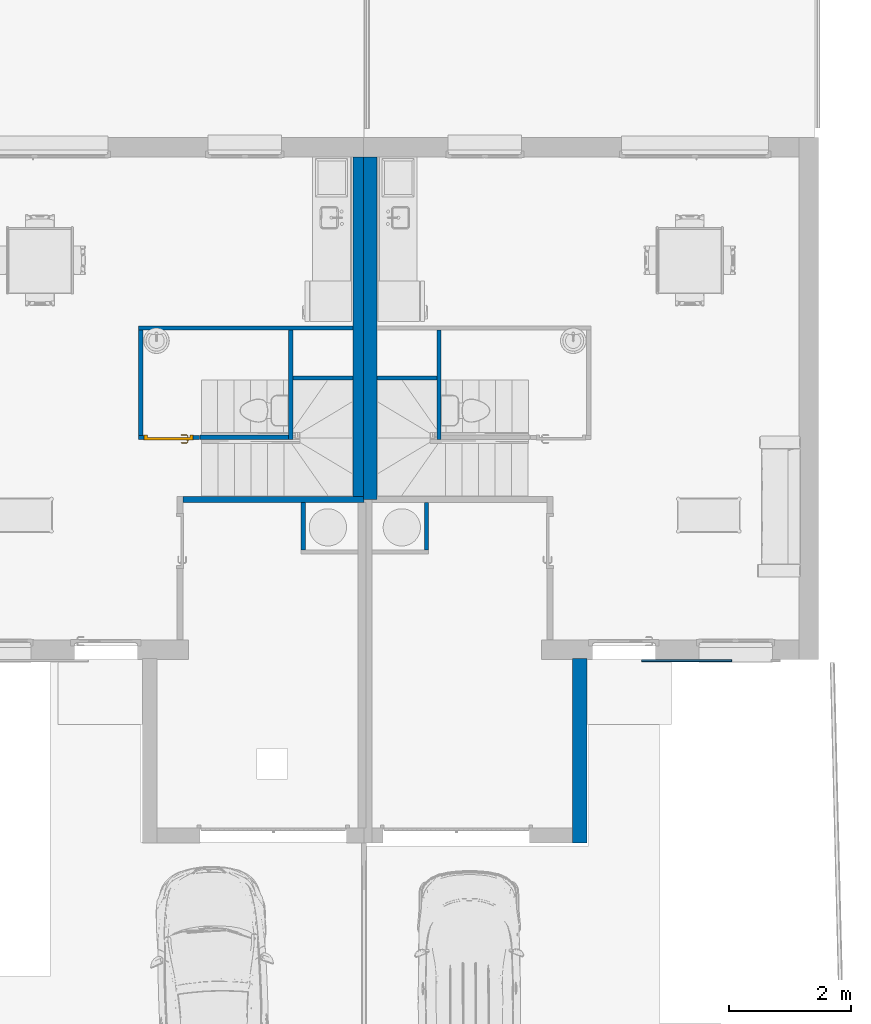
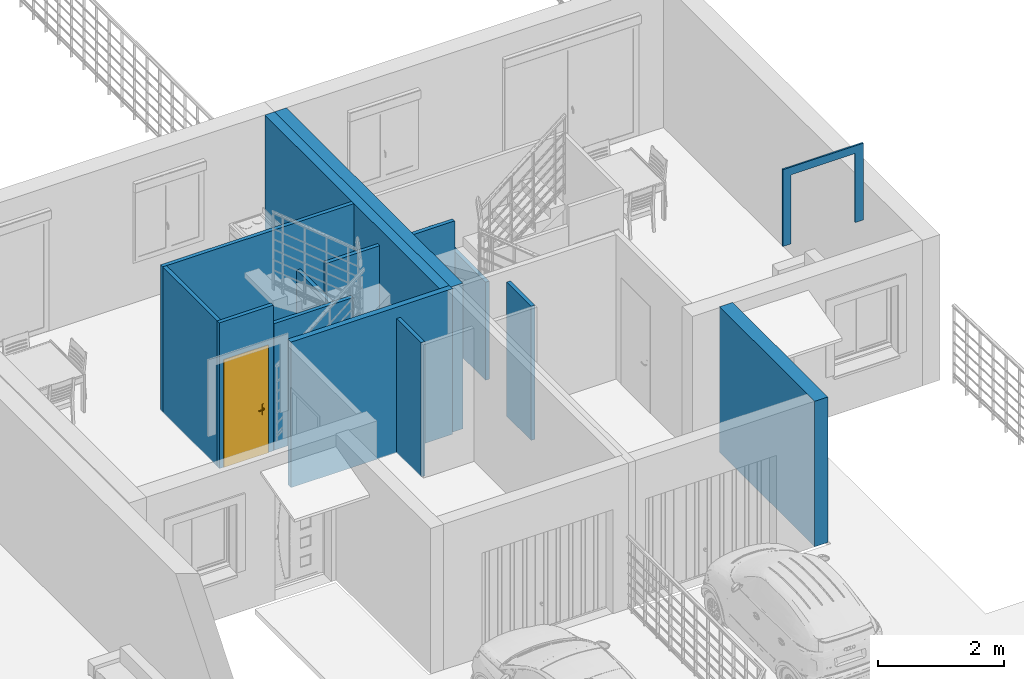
# One storey, part 19 of 33: 15 walls, 1 door, 2 openings.
"""IFC2X3 building model written with IfcOpenShell, lengths in metres."""

import ifcopenshell
import ifcopenshell.guid

model = None  # the IFC model being written
_history = None  # IfcOwnerHistory: only IFC2X3 demands one
_inside = {}  # id of a spatial element -> (the spatial element, [elements in it])
_under = {}  # id of a project, library or spatial element -> (it, [spatial elements below it])
_declared = {}  # id of a project -> (the project, [libraries it declares])
_typed = {}  # id of a type object -> (the type object, [elements of that type])
_made_of = {}  # id of a material, layer set ... -> (it, [elements and type objects made of it])


def new_model(schema):
    """Start an empty IFC model of exactly this schema.

    Asked for "IFC4X3", IfcOpenShell would pick the latest addendum, in which some entities
    have other attributes; the version numbers below select the first issue.
    IFC2X3 requires an IfcOwnerHistory on every rooted entity: one is made here for all.
    """
    global model, _history
    if schema == "IFC4X3":
        model = ifcopenshell.file(schema_version=(4, 3, 0, 0))
    else:
        model = ifcopenshell.file(schema=schema)
    _inside.clear()
    _under.clear()
    _declared.clear()
    _typed.clear()
    _made_of.clear()
    _history = None
    if model.schema == "IFC2X3":
        org = make("IfcOrganization", Name="unknown")
        user = make(
            "IfcPersonAndOrganization",
            ThePerson=make("IfcPerson", FamilyName="unknown"),
            TheOrganization=org,
        )
        app = make(
            "IfcApplication",
            ApplicationDeveloper=org,
            Version="unknown",
            ApplicationFullName="unknown",
            ApplicationIdentifier="unknown",
        )
        _history = make(
            "IfcOwnerHistory",
            OwningUser=user,
            OwningApplication=app,
            ChangeAction="ADDED",
            CreationDate=0,
        )
    return model


def make(cls, **values):
    """One entity of the class cls with the attributes given. An attribute that is None is left unset."""
    return model.create_entity(
        cls, **{name: value for name, value in values.items() if value is not None}
    )


def entity(cls, *values):
    """Any entity or typed value of the class cls, its attributes in the order of the schema. None: left unset."""
    e = model.create_entity(cls)
    for i, value in enumerate(values):
        if value is not None:
            e[i] = value
    return e


def rooted(cls, **values):
    """An entity with a GlobalId (a new one), such as an element, a storey or a relation."""
    return make(cls, GlobalId=ifcopenshell.guid.new(), OwnerHistory=_history, **values)


def si_unit(unit_type, name, prefix=None):
    """IfcSIUnit, for example si_unit("LENGTHUNIT", "METRE", prefix="MILLI")."""
    return make("IfcSIUnit", UnitType=unit_type, Prefix=prefix, Name=name)


def converted_unit(unit_type, name, factor, base, dimensions=None, offset=None):
    """IfcConversionBasedUnit, such as the inch: factor (a typed value) times the base unit."""
    return make(
        "IfcConversionBasedUnit"
        if offset is None
        else "IfcConversionBasedUnitWithOffset",
        ConversionOffset=offset,
        Dimensions=None
        if dimensions is None
        else entity("IfcDimensionalExponents", *dimensions),
        UnitType=unit_type,
        Name=name,
        ConversionFactor=make(
            "IfcMeasureWithUnit", ValueComponent=factor, UnitComponent=base
        ),
    )


def derived_unit(unit_type, elements):
    """IfcDerivedUnit: a product of units, each with its exponent."""
    return make(
        "IfcDerivedUnit",
        Elements=[
            make("IfcDerivedUnitElement", Unit=unit, Exponent=power)
            for unit, power in elements
        ],
        UnitType=unit_type,
    )


def assignment(units):
    """IfcUnitAssignment: the units of a project."""
    return None if units is None else make("IfcUnitAssignment", Units=units)


def point(xyz):
    """IfcCartesianPoint."""
    return None if xyz is None else make("IfcCartesianPoint", Coordinates=xyz)


def direction(xyz):
    """IfcDirection."""
    return None if xyz is None else make("IfcDirection", DirectionRatios=xyz)


def frame(location, z_axis=None, x_axis=None):
    """IfcAxis2Placement3D, a coordinate frame: its origin and axes. An axis left out is left unset."""
    return make(
        "IfcAxis2Placement3D",
        Location=point(location),
        Axis=direction(z_axis),
        RefDirection=direction(x_axis),
    )


def frame_2d(location, x_axis=None):
    """IfcAxis2Placement2D, a coordinate frame in the plane: its origin and x axis."""
    return make(
        "IfcAxis2Placement2D", Location=point(location), RefDirection=direction(x_axis)
    )


def origin():
    """The frame at (0, 0, 0) with its axes left unset."""
    return frame((0.0, 0.0, 0.0))


def place(relative_to, where):
    """IfcLocalPlacement: puts the frame where relative to a parent placement (None: the world)."""
    return make(
        "IfcLocalPlacement", PlacementRelTo=relative_to, RelativePlacement=where
    )


def context(
    kind, dimensions, precision=None, world=None, true_north=None, identifier=None
):
    """IfcGeometricRepresentationContext, for example the 3D "Model" context."""
    return make(
        "IfcGeometricRepresentationContext",
        ContextIdentifier=identifier,
        ContextType=kind,
        CoordinateSpaceDimension=dimensions,
        Precision=precision,
        WorldCoordinateSystem=world,
        TrueNorth=true_north,
    )


def subcontext(parent, identifier, kind, view, scale=None):
    """IfcGeometricRepresentationSubContext, for example "Body" below "Model"."""
    return make(
        "IfcGeometricRepresentationSubContext",
        ContextIdentifier=identifier,
        ContextType=kind,
        ParentContext=parent,
        TargetScale=scale,
        TargetView=view,
    )


def project(units=None, contexts=None):
    """IfcProject with its units and contexts."""
    return rooted(
        "IfcProject",
        Name="project",
        RepresentationContexts=contexts,
        UnitsInContext=assignment(units),
    )


def spatial(cls, under=None, at=None, **own):
    """A site, building, storey or space (cls), placed at a placement, below another one or the project."""
    s = rooted(cls, ObjectPlacement=at, **own)
    if under is not None:
        _under.setdefault(under.id(), (under, []))[1].append(s)
    return s


def polyline(points):
    """IfcPolyline through the points."""
    return make("IfcPolyline", Points=[point(p) for p in points])


def profile(cls, at=None, kind="AREA", **sizes):
    """A parametric profile (cls). Its sizes go by their IFC names, for example OverallWidth=200.0."""
    return make(cls, ProfileType=kind, Position=at, **sizes)


def rectangle(**sizes):
    """IfcRectangleProfileDef."""
    return profile("IfcRectangleProfileDef", **sizes)


def outline(outer, holes=None, kind="AREA"):
    """IfcArbitraryClosedProfileDef: a profile drawn as a closed curve; with holes, ...WithVoids."""
    if holes is None:
        return make("IfcArbitraryClosedProfileDef", ProfileType=kind, OuterCurve=outer)
    return make(
        "IfcArbitraryProfileDefWithVoids",
        ProfileType=kind,
        OuterCurve=outer,
        InnerCurves=holes,
    )


def extrude(swept, where, along, depth):
    """IfcExtrudedAreaSolid: the profile swept, set in the frame where, extruded along a direction by depth."""
    return make(
        "IfcExtrudedAreaSolid",
        SweptArea=swept,
        Position=where,
        ExtrudedDirection=direction(along),
        Depth=depth,
    )


def clip(a, b, op="DIFFERENCE"):
    """IfcBooleanClippingResult: the solid a cut by the half space b."""
    return make(
        "IfcBooleanClippingResult", Operator=op, FirstOperand=a, SecondOperand=b
    )


def halfspace(plane, agree):
    """IfcHalfSpaceSolid: all space on one side of the plane z = 0 of the frame plane."""
    return make(
        "IfcHalfSpaceSolid",
        BaseSurface=make("IfcPlane", Position=plane),
        AgreementFlag=agree,
    )


def faces_of(points, faces, orient=None, outer=None):
    """IfcFace entities. A face is a list of loops; a loop is a list of indices into points, from 0.

    orient and outer hold one flag for each loop. By default every Orientation is true, the
    first loop of a face is its IfcFaceOuterBound and the others are IfcFaceBound.
    """
    made = []
    for i, loops in enumerate(faces):
        bounds = []
        for j, loop in enumerate(loops):
            is_outer = j == 0 if outer is None else outer[i][j]
            bounds.append(
                make(
                    "IfcFaceOuterBound" if is_outer else "IfcFaceBound",
                    Bound=make("IfcPolyLoop", Polygon=[points[k] for k in loop]),
                    Orientation=True if orient is None else orient[i][j],
                )
            )
        made.append(make("IfcFace", Bounds=bounds))
    return made


def faceted_brep(points, faces, orient=None, outer=None, voids=None):
    """IfcFacetedBrep: a solid bounded by flat faces; with voids (closed shells), ...WithVoids."""
    shared = [point(p) for p in points]
    hull = make("IfcClosedShell", CfsFaces=faces_of(shared, faces, orient, outer))
    if voids is None:
        return make("IfcFacetedBrep", Outer=hull)
    return make(
        "IfcFacetedBrepWithVoids",
        Outer=hull,
        Voids=[
            make(cls, CfsFaces=faces_of(shared, fs, o, b)) for cls, fs, o, b in voids
        ],
    )


def shape(context_of_items, identifier, shape_type, items):
    """IfcShapeRepresentation: the items that make up one representation, for example the "Body"."""
    return make(
        "IfcShapeRepresentation",
        ContextOfItems=context_of_items,
        RepresentationIdentifier=identifier,
        RepresentationType=shape_type,
        Items=items,
    )


def source(mapping_origin, context_of_items, identifier, shape_type, items):
    """IfcRepresentationMap: a shape defined once, which mapped items show again and again."""
    return make(
        "IfcRepresentationMap",
        MappingOrigin=mapping_origin,
        MappedRepresentation=shape(context_of_items, identifier, shape_type, items),
    )


def transform(
    local_origin,
    x_axis=None,
    y_axis=None,
    z_axis=None,
    scale=None,
    scale2=None,
    scale3=None,
    uniform=True,
):
    """IfcCartesianTransformationOperator3D, or its non-uniform kind. x_axis, y_axis, z_axis: its Axis1, 2, 3."""
    if uniform:
        return make(
            "IfcCartesianTransformationOperator3D",
            Axis1=direction(x_axis),
            Axis2=direction(y_axis),
            LocalOrigin=point(local_origin),
            Scale=scale,
            Axis3=direction(z_axis),
        )
    return make(
        "IfcCartesianTransformationOperator3DnonUniform",
        Axis1=direction(x_axis),
        Axis2=direction(y_axis),
        LocalOrigin=point(local_origin),
        Scale=scale,
        Axis3=direction(z_axis),
        Scale2=scale2,
        Scale3=scale3,
    )


def mapped(mapping_source, mapping_target):
    """IfcMappedItem: shows the shape of a source again, moved by a transform."""
    return make(
        "IfcMappedItem", MappingSource=mapping_source, MappingTarget=mapping_target
    )


def material(Name=None, Category=None):
    """IfcMaterial."""
    return make("IfcMaterial", Name=Name, Category=Category)


def material_list(materials):
    """IfcMaterialList."""
    return make("IfcMaterialList", Materials=materials)


def layer(
    of_material, thickness, ventilated=None, Name=None, Category=None, Priority=None
):
    """IfcMaterialLayer: one layer of a wall or slab, of a material (None: an air gap)."""
    return make(
        "IfcMaterialLayer",
        Material=of_material,
        LayerThickness=thickness,
        IsVentilated=ventilated,
        Name=Name,
        Category=Category,
        Priority=Priority,
    )


def layer_set(layers, Name=None):
    """IfcMaterialLayerSet."""
    return make("IfcMaterialLayerSet", MaterialLayers=layers, LayerSetName=Name)


def layer_usage(for_layer_set, set_direction, sense, offset, extent=None):
    """IfcMaterialLayerSetUsage: how a layer set lies in its element."""
    return make(
        "IfcMaterialLayerSetUsage",
        ForLayerSet=for_layer_set,
        LayerSetDirection=set_direction,
        DirectionSense=sense,
        OffsetFromReferenceLine=offset,
        ReferenceExtent=extent,
    )


def made_of(thing, what):
    """Note that an element or type object is made of a material, layer set ...; save() writes the relation."""
    if what is not None:
        _made_of.setdefault(what.id(), (what, []))[1].append(thing)
    return thing


def type_object(cls, material=None, **own):
    """A type object (cls), such as IfcWallType, which elements share."""
    return made_of(rooted(cls, **own), material)


def type_shapes(of_type, sources):
    """Give a type object the sources (RepresentationMaps) that its elements show as mapped items."""
    of_type.RepresentationMaps = sources


def element(
    cls,
    number,
    at=None,
    inside=None,
    cuts=None,
    type_object=None,
    material=None,
    context=None,
    identifier="Body",
    shape_type=None,
    held_by="IfcProductDefinitionShape",
    body=None,
    shapes=None,
    **own,
):
    """One element of the class cls, such as IfcWall. Its Tag is "e" and its number.

    at: its placement. inside: the storey or other place that contains it. cuts: it is an
    opening in that element (IfcRelVoidsElement). A single representation is given by context,
    identifier, shape_type and body (its items); several are given by shapes. held_by: the class
    of the entity that holds the representations. save() writes the other relations.
    """
    e = rooted(cls, Tag="e%d" % number, ObjectPlacement=at, **own)
    if body is not None:
        shapes = [shape(context, identifier, shape_type, body)]
    if shapes is not None:
        e.Representation = make(held_by, Representations=shapes)
    if inside is not None:
        _inside.setdefault(inside.id(), (inside, []))[1].append(e)
    if cuts is not None:
        rooted(
            "IfcRelVoidsElement", RelatingBuildingElement=cuts, RelatedOpeningElement=e
        )
    if type_object is not None:
        _typed.setdefault(type_object.id(), (type_object, []))[1].append(e)
    return made_of(e, material)


def fill(opening, filler):
    """IfcRelFillsElement: the door or window that sits in an opening."""
    return rooted(
        "IfcRelFillsElement",
        RelatingOpeningElement=opening,
        RelatedBuildingElement=filler,
    )


def aggregate(whole, parts):
    """IfcRelAggregates: a whole, such as a stair, and the parts it consists of."""
    return rooted("IfcRelAggregates", RelatingObject=whole, RelatedObjects=parts)


def save(model, path):
    """Write the relations noted so far, then the file.

    IfcRelAggregates (storeys below a building ...), IfcRelContainedInSpatialStructure (elements
    in a storey), IfcRelDefinesByType, IfcRelAssociatesMaterial and IfcRelDeclares: one each for
    every whole, place, type object, material and project.
    """
    for whole, parts in _under.values():
        aggregate(whole, parts)
    for where, things in _inside.values():
        rooted(
            "IfcRelContainedInSpatialStructure",
            RelatedElements=things,
            RelatingStructure=where,
        )
    for kind, things in _typed.values():
        rooted("IfcRelDefinesByType", RelatedObjects=things, RelatingType=kind)
    for what, things in _made_of.values():
        rooted("IfcRelAssociatesMaterial", RelatedObjects=things, RelatingMaterial=what)
    for by, libraries in _declared.values():
        rooted("IfcRelDeclares", RelatingContext=by, RelatedDefinitions=libraries)
    model.write(path)


model = new_model("IFC2X3")

# Units and contexts
model_context = context("Model", 3, precision=1e-05, world=origin(), true_north=direction((6.12303176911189e-17, 1.0)))
context_of_model = context(None, 3, precision=1e-05, world=origin(), true_north=direction((6.12303176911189e-17, 1.0)))
body_context = subcontext(model_context, "Body", "Model", "MODEL_VIEW")
ifc_project = project(units=[si_unit("LENGTHUNIT", "METRE"), si_unit("AREAUNIT", "SQUARE_METRE"), si_unit("VOLUMEUNIT", "CUBIC_METRE"), converted_unit("PLANEANGLEUNIT", "DEGREE", entity("IfcRatioMeasure", 0.0174532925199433), si_unit("PLANEANGLEUNIT", "RADIAN"), dimensions=[0, 0, 0, 0, 0, 0, 0]), si_unit("MASSUNIT", "GRAM", prefix="KILO"), si_unit("TIMEUNIT", "SECOND"), si_unit("FREQUENCYUNIT", "HERTZ"), si_unit("THERMODYNAMICTEMPERATUREUNIT", "DEGREE_CELSIUS"), derived_unit("THERMALTRANSMITTANCEUNIT", [(si_unit("MASSUNIT", "GRAM", prefix="KILO"), 1), (si_unit("THERMODYNAMICTEMPERATUREUNIT", "KELVIN"), -1), (si_unit("TIMEUNIT", "SECOND"), -3)]), derived_unit("VOLUMETRICFLOWRATEUNIT", [(si_unit("LENGTHUNIT", "METRE"), 3), (si_unit("TIMEUNIT", "SECOND"), -1)]), si_unit("ELECTRICCURRENTUNIT", "AMPERE"), si_unit("ELECTRICVOLTAGEUNIT", "VOLT"), si_unit("POWERUNIT", "WATT"), si_unit("FORCEUNIT", "NEWTON", prefix="KILO"), si_unit("ILLUMINANCEUNIT", "LUX"), si_unit("LUMINOUSFLUXUNIT", "LUMEN"), si_unit("LUMINOUSINTENSITYUNIT", "CANDELA"), si_unit("PRESSUREUNIT", "PASCAL")], contexts=[model_context, context_of_model])

# Site, building, storey
site_placement = place(None, origin())
site = spatial("IfcSite", under=ifc_project, at=site_placement, Name="Surface", CompositionType="ELEMENT")
building_placement = place(site_placement, origin())
building = spatial("IfcBuilding", under=site, at=building_placement, CompositionType="ELEMENT")
storey_placement = place(building_placement, origin())
storey = spatial("IfcBuildingStorey", under=building, at=storey_placement, Name="Plan des fondations  Maisons 1 et 2", CompositionType="ELEMENT", Elevation=0.0)

# Walls
ifc_material_1 = material(Name="Enduit blanc cassé2")
ifc_layer_1 = layer(ifc_material_1, 0.02)
ifc_material_2 = material(Name="Parpaing")
ifc_layer_2 = layer(ifc_material_2, 0.1)
ifc_material_3 = material(Name="Isolant")
ifc_layer_3 = layer(ifc_material_3, 0.1)
ifc_layer_set_1 = layer_set([ifc_layer_1, ifc_layer_2, ifc_layer_3], Name="Mur de base:Ext. Parpaing 10 + Isolant 10 enduit blanc cassé")
ifc_layer_usage_1 = layer_usage(ifc_layer_set_1, "AXIS2", "POSITIVE", -0.11)
wall_type_1 = type_object("IfcWallType", Name="Mur de base:Ext. Parpaing 10 + Isolant 10 enduit blanc cassé", PredefinedType="STANDARD", material=ifc_layer_set_1)
wall_1_placement = place(building_placement, frame((83.8167857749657, 92.1475239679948, 0.0), z_axis=(0.0, 0.0, 1.0), x_axis=(0.0, -1.0, 0.0)))
element("IfcWallStandardCase", 1, at=wall_1_placement, inside=storey, type_object=wall_type_1, material=ifc_layer_usage_1, Name="Mur de base:Ext. Parpaing 10 + Isolant 10 enduit blanc cassé", ObjectType="Mur de base:Ext. Parpaing 10 + Isolant 10 enduit blanc cassé", context=body_context, shape_type="SweptSolid", body=[
    extrude(rectangle(XDim=5.60000000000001, YDim=0.219999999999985, at=frame_2d((2.8, 0.0), x_axis=(-1.0, 0.0))), origin(), (0.0, 0.0, 1.0), 2.82),
])
ifc_layer_usage_2 = layer_usage(ifc_layer_set_1, "AXIS2", "NEGATIVE", 0.11)
wall_2_placement = place(storey_placement, frame((83.6410189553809, 92.1475239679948, 0.0), z_axis=(0.0, 0.0, 1.0), x_axis=(0.0, -1.0, 0.0)))
element("IfcWallStandardCase", 2, at=wall_2_placement, inside=storey, type_object=wall_type_1, material=ifc_layer_usage_2, Name="Mur de base:Ext. Parpaing 10 + Isolant 10 enduit blanc cassé", ObjectType="Mur de base:Ext. Parpaing 10 + Isolant 10 enduit blanc cassé", context=body_context, shape_type="SweptSolid", body=[
    extrude(rectangle(XDim=5.60000000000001, YDim=0.219999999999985, at=frame_2d((2.8, 0.0), x_axis=(-1.0, 0.0))), origin(), (0.0, 0.0, 1.0), 2.82),
])
ifc_material_4 = material(Name="Enduit  gris")
ifc_layer_4 = layer(ifc_material_4, 0.02)
ifc_layer_5 = layer(ifc_material_2, 0.2)
ifc_layer_6 = layer(ifc_material_4, 0.02)
ifc_layer_set_2 = layer_set([ifc_layer_4, ifc_layer_5, ifc_layer_6], Name="Mur de base:Ext. Parpaing 2 + 20 + 2 gris")
ifc_layer_usage_3 = layer_usage(ifc_layer_set_2, "AXIS2", "NEGATIVE", 0.12)
wall_type_2 = type_object("IfcWallType", Name="Mur de base:Ext. Parpaing 2 + 20 + 2 gris", PredefinedType="STANDARD", material=ifc_layer_set_2)
wall_3_placement = place(building_placement, frame((87.2467857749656, 80.9275239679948, 0.0), z_axis=(0.0, 0.0, 1.0), x_axis=(0.0, 1.0, 0.0)))
element("IfcWallStandardCase", 3, at=wall_3_placement, inside=storey, type_object=wall_type_2, material=ifc_layer_usage_3, Name="Mur de base:Ext. Parpaing 2 + 20 + 2 gris", ObjectType="Mur de base:Ext. Parpaing 2 + 20 + 2 gris", context=body_context, shape_type="SweptSolid", body=[
    extrude(rectangle(XDim=3.02000000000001, YDim=0.240000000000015, at=frame_2d((1.51, -3.79557496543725e-15), x_axis=(-1.0, 0.0))), origin(), (0.0, 0.0, 1.0), 2.82),
])
ifc_material_5 = material(Name="Peinture - Blanc")
ifc_layer_7 = layer(ifc_material_5, 0.1)
ifc_layer_set_3 = layer_set([ifc_layer_7], Name="Mur de base:Int.  Platre 100 mm en blanc 2")
ifc_layer_usage_4 = layer_usage(ifc_layer_set_3, "AXIS2", "POSITIVE", -0.05)
wall_type_3 = type_object("IfcWallType", Name="Mur de base:Int.  Platre 100 mm en blanc 2", PredefinedType="STANDARD", material=ifc_layer_set_3)
wall_4_placement = place(storey_placement, frame((80.7510189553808, 86.5475239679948, 0.0)))
element("IfcWallStandardCase", 4, at=wall_4_placement, inside=storey, type_object=wall_type_3, material=ifc_layer_usage_4, Name="Mur de base:Int.  Platre 100 mm en blanc 2", ObjectType="Mur de base:Int.  Platre 100 mm en blanc 2", context=body_context, shape_type="SweptSolid", body=[
    extrude(outline(polyline([(2.96076681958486, -0.0499999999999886), (2.96076681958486, 0.0), (2.95576681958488, 0.0), (2.95576681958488, 0.050000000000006), (0.0, 0.050000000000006), (0.0, -0.0499999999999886), (1.93500000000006, -0.0499999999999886), (2.00500000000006, -0.0499999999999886), (2.86500000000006, -0.0499999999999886), (2.96076681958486, -0.0499999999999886)])), origin(), (0.0, 0.0, 1.0), 2.82),
])
ifc_layer_8 = layer(ifc_material_5, 0.07)
ifc_layer_set_4 = layer_set([ifc_layer_8], Name="Mur de base:Int.  Platre 70 mm en blanc")
ifc_layer_usage_5 = layer_usage(ifc_layer_set_4, "AXIS2", "NEGATIVE", 0.035)
wall_type_4 = type_object("IfcWallType", Name="Mur de base:Int.  Platre 70 mm en blanc", PredefinedType="STANDARD", material=ifc_layer_set_4)
wall_5_placement = place(storey_placement, frame((84.9417857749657, 87.5275239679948, 0.0), z_axis=(0.0, 0.0, 1.0), x_axis=(0.0, 1.0, 0.0)))
element("IfcWallStandardCase", 5, at=wall_5_placement, inside=storey, type_object=wall_type_4, material=ifc_layer_usage_5, Name="Mur de base:Int.  Platre 70 mm en blanc", ObjectType="Mur de base:Int.  Platre 70 mm en blanc", context=body_context, shape_type="SweptSolid", body=[
    extrude(rectangle(XDim=1.78999999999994, YDim=0.0699999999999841, at=frame_2d((0.89499999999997, 0.0), x_axis=(-1.0, 0.0))), origin(), (0.0, 0.0, 1.0), 1.9),
])
ifc_layer_usage_6 = layer_usage(ifc_layer_set_4, "AXIS2", "NEGATIVE", 0.035)
wall_6_placement = place(building_placement, frame((84.9067857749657, 88.5346045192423, 0.0), z_axis=(0.0, 0.0, 1.0), x_axis=(-1.0, 0.0, 0.0)))
element("IfcWallStandardCase", 6, at=wall_6_placement, inside=storey, type_object=wall_type_4, material=ifc_layer_usage_6, Name="Mur de base:Int.  Platre 70 mm en blanc", ObjectType="Mur de base:Int.  Platre 70 mm en blanc", context=body_context, shape_type="SweptSolid", body=[
    extrude(rectangle(XDim=0.980000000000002, YDim=0.0699999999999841, at=frame_2d((0.490000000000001, 0.0), x_axis=(-1.0, 0.0))), origin(), (0.0, 0.0, 1.0), 2.5),
])
ifc_layer_usage_7 = layer_usage(ifc_layer_set_4, "AXIS2", "NEGATIVE", 0.035)
wall_7_placement = place(building_placement, frame((84.7367857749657, 85.7225239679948, 0.0), z_axis=(0.0, 0.0, 1.0), x_axis=(0.0, 1.0, 0.0)))
element("IfcWallStandardCase", 7, at=wall_7_placement, inside=storey, type_object=wall_type_4, material=ifc_layer_usage_7, Name="Mur de base:Int.  Platre 70 mm en blanc", ObjectType="Mur de base:Int.  Platre 70 mm en blanc", context=body_context, shape_type="SweptSolid", body=[
    extrude(rectangle(XDim=0.774999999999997, YDim=0.0699999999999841, at=frame_2d((0.387499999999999, 0.0), x_axis=(-1.0, 0.0))), origin(), (0.0, 0.0, 1.0), 2.6),
])
ifc_layer_usage_8 = layer_usage(ifc_layer_set_4, "AXIS2", "POSITIVE", -0.035)
wall_8_placement = place(storey_placement, frame((83.5310189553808, 89.3525239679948, 0.0), z_axis=(0.0, 0.0, 1.0), x_axis=(-1.0, 0.0, 0.0)))
element("IfcWallStandardCase", 8, at=wall_8_placement, inside=storey, type_object=wall_type_4, material=ifc_layer_usage_8, Name="Mur de base:Int.  Platre 70 mm en blanc", ObjectType="Mur de base:Int.  Platre 70 mm en blanc", context=body_context, shape_type="SweptSolid", body=[
    extrude(rectangle(XDim=3.50211659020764, YDim=0.0699999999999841, at=frame_2d((1.75105829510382, -7.45931094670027e-16), x_axis=(-1.0, 0.0))), origin(), (0.0, 0.0, 1.0), 2.82),
])
ifc_layer_usage_9 = layer_usage(ifc_layer_set_4, "AXIS2", "POSITIVE", -0.035)
wall_9_placement = place(storey_placement, frame((80.0639023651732, 87.5943952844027, 0.0), z_axis=(0.0, 0.0, 1.0), x_axis=(0.0, 1.0, 0.0)))
element("IfcWallStandardCase", 9, at=wall_9_placement, inside=storey, type_object=wall_type_4, material=ifc_layer_usage_9, Name="Mur de base:Int.  Platre 70 mm en blanc", ObjectType="Mur de base:Int.  Platre 70 mm en blanc", context=body_context, shape_type="SweptSolid", body=[
    extrude(rectangle(XDim=1.72312868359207, YDim=0.0699999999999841, at=frame_2d((0.861564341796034, 0.0), x_axis=(-1.0, 0.0))), origin(), (0.0, 0.0, 1.0), 2.82),
])
ifc_layer_usage_10 = layer_usage(ifc_layer_set_4, "AXIS2", "POSITIVE", -0.035)
wall_10_placement = place(storey_placement, frame((82.4810189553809, 87.5625239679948, 0.0), z_axis=(0.0, 0.0, 1.0), x_axis=(-1.0, 0.0, 0.0)))
element("IfcWallStandardCase", 10, at=wall_10_placement, inside=storey, type_object=wall_type_4, material=ifc_layer_usage_10, Name="Mur de base:Int.  Platre 70 mm en blanc", ObjectType="Mur de base:Int.  Platre 70 mm en blanc", context=body_context, shape_type="SweptSolid", body=[
    extrude(rectangle(XDim=1.45171659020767, YDim=0.0699999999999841, at=frame_2d((0.725858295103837, -3.03576608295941e-15), x_axis=(-1.0, 0.0))), origin(), (0.0, 0.0, 1.0), 2.45350535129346),
])
ifc_layer_usage_11 = layer_usage(ifc_layer_set_4, "AXIS2", "POSITIVE", -0.035)
wall_11_placement = place(storey_placement, frame((82.5160189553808, 87.5275239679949, 0.0), z_axis=(0.0, 0.0, 1.0), x_axis=(0.0, 1.0, 0.0)))
element("IfcWallStandardCase", 11, at=wall_11_placement, inside=storey, type_object=wall_type_4, material=ifc_layer_usage_11, Name="Mur de base:Int.  Platre 70 mm en blanc", ObjectType="Mur de base:Int.  Platre 70 mm en blanc", context=body_context, shape_type="SweptSolid", body=[
    extrude(rectangle(XDim=1.78999999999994, YDim=0.0699999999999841, at=frame_2d((0.89499999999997, 0.0), x_axis=(-1.0, 0.0))), origin(), (0.0, 0.0, 1.0), 1.9),
])

# Wall, opening, door
ifc_layer_usage_12 = layer_usage(ifc_layer_set_4, "AXIS2", "POSITIVE", -0.035)
wall_12_placement = place(storey_placement, frame((81.0193023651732, 87.5593952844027, 0.0), z_axis=(0.0, 0.0, 1.0), x_axis=(-1.0, 0.0, 0.0)))
wall_12 = element("IfcWallStandardCase", 12, at=wall_12_placement, inside=storey, type_object=wall_type_4, material=ifc_layer_usage_12, Name="Mur de base:Int.  Platre 70 mm en blanc", ObjectType="Mur de base:Int.  Platre 70 mm en blanc", context=body_context, shape_type="SweptSolid", body=[
    extrude(rectangle(XDim=0.990399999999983, YDim=0.0699999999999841, at=frame_2d((0.495199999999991, -2.43208231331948e-15), x_axis=(-1.0, 0.0))), origin(), (0.0, 0.0, 1.0), 2.82),
])
opening_1_placement = place(wall_12_placement, frame((0.100399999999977, -0.0350000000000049, 0.0)))
opening_1 = element("IfcOpeningElement", 13, at=opening_1_placement, cuts=wall_12, Name="FR_Simple (R):73 x 204 - (70):1", ObjectType="Opening", context=body_context, shape_type="SweptSolid", body=[
    extrude(rectangle(XDim=2.075, YDim=0.799999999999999, at=frame_2d((1.0375, 0.4), x_axis=(1.0, 0.0))), frame((0.0, 0.0, 0.0), z_axis=(0.0, 1.0, 0.0), x_axis=(0.0, 0.0, 1.0)), (0.0, 0.0, 1.0), 0.07),
])
ifc_material_6 = material(Name="Poignée Porte")
ifc_material_7 = material(Name="Dormants Portes")
ifc_material_8 = material(Name="Panneaux Portes")
ifc_material_list_1 = material_list([ifc_material_6, ifc_material_7, ifc_material_8])
ifc_material_list_2 = material_list([ifc_material_6, ifc_material_7, ifc_material_8])
door_style = type_object("IfcDoorStyle", Name="73 x 204 - (70)", ConstructionType="NOTDEFINED", OperationType="SINGLE_SWING_RIGHT", ParameterTakesPrecedence=False, Sizeable=False, material=ifc_material_list_2)
shared_shape = source(origin(), body_context, "Body", "Brep", [
    faceted_brep([(0.710000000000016, -0.0130000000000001, 0.764641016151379), (0.720352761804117, -0.0130000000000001, 0.766003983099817), (0.730000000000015, -0.0130000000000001, 0.770000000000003), (0.730000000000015, -0.0130000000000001, 0.980000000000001), (0.720352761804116, -0.0130000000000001, 0.983996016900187), (0.710000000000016, -0.0130000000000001, 0.985358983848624), (0.699647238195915, -0.0130000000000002, 0.983996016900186), (0.690000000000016, -0.0130000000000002, 0.980000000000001), (0.690000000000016, -0.0130000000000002, 0.770000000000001), (0.699647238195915, -0.0130000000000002, 0.766003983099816), (0.730000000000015, -0.00800000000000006, 0.980000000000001), (0.730000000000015, -0.00800000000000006, 0.770000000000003), (0.720352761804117, -0.00800000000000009, 0.766003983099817), (0.710000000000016, -0.00800000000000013, 0.764641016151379), (0.699647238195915, -0.00800000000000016, 0.766003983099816), (0.690000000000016, -0.00800000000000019, 0.770000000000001), (0.690000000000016, -0.00800000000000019, 0.980000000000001), (0.699647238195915, -0.00800000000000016, 0.983996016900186), (0.710000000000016, -0.00800000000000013, 0.985358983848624), (0.720352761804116, -0.00800000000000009, 0.983996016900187)], [[[0, 1, 2, 3, 4, 5, 6, 7, 8, 9]], [[10, 11, 12, 13, 14, 15, 16, 17, 18, 19]], [[1, 12, 11, 2]], [[0, 13, 12, 1]], [[9, 14, 13, 0]], [[9, 8, 15, 14]], [[15, 8, 7, 16]], [[6, 17, 16, 7]], [[5, 18, 17, 6]], [[4, 19, 18, 5]], [[4, 3, 10, 19]], [[10, 3, 2, 11]]]),
    faceted_brep([(0.730000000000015, 0.0319999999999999, 0.770000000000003), (0.730000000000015, 0.0319999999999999, 0.980000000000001), (0.720352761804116, 0.0319999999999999, 0.983996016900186), (0.710000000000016, 0.0319999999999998, 0.985358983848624), (0.699647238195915, 0.0319999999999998, 0.983996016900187), (0.690000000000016, 0.0319999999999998, 0.980000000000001), (0.690000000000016, 0.0319999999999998, 0.770000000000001), (0.699647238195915, 0.0319999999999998, 0.766003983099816), (0.710000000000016, 0.0319999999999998, 0.764641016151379), (0.720352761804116, 0.0319999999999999, 0.766003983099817), (0.710000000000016, 0.0369999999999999, 0.985358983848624), (0.720352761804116, 0.0369999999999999, 0.983996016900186), (0.730000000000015, 0.0369999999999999, 0.980000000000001), (0.730000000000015, 0.0369999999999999, 0.770000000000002), (0.720352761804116, 0.0369999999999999, 0.766003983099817), (0.710000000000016, 0.0369999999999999, 0.764641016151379), (0.699647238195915, 0.0369999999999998, 0.766003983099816), (0.690000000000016, 0.0369999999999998, 0.770000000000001), (0.690000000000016, 0.0369999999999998, 0.980000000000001), (0.699647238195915, 0.0369999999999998, 0.983996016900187)], [[[0, 1, 2, 3, 4, 5, 6, 7, 8, 9]], [[10, 11, 12, 13, 14, 15, 16, 17, 18, 19]], [[4, 19, 18, 5]], [[3, 10, 19, 4]], [[2, 11, 10, 3]], [[2, 1, 12, 11]], [[12, 1, 0, 13]], [[9, 14, 13, 0]], [[8, 15, 14, 9]], [[7, 16, 15, 8]], [[7, 6, 17, 16]], [[17, 6, 5, 18]]]),
    faceted_brep([(0.707974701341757, -0.0130000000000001, 0.907780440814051), (0.712025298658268, -0.0130000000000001, 0.907780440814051), (0.716000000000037, -0.0130000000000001, 0.906999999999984), (0.716000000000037, -0.0130000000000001, 0.892999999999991), (0.712025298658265, -0.0130000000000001, 0.892219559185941), (0.707974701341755, -0.0130000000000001, 0.89221955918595), (0.703999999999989, -0.0130000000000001, 0.893000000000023), (0.703999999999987, -0.0130000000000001, 0.90699999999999), (0.712025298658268, -0.0390045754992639, 0.907780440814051), (0.716000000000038, -0.0406509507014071, 0.906999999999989), (0.707974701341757, -0.0373267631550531, 0.907780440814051), (0.694298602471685, -0.0510028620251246, 0.907780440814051), (0.695976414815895, -0.0550534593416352, 0.907780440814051), (0.609142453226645, -0.0550534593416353, 0.90778044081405), (0.610820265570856, -0.0510028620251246, 0.90778044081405), (0.604342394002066, -0.0445249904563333, 0.90778044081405), (0.601478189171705, -0.0473891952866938, 0.90778044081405), (0.703999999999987, -0.0356803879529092, 0.90699999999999), (0.703999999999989, -0.0356803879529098, 0.893000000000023), (0.707974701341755, -0.0373267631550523, 0.89221955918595), (0.712025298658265, -0.0390045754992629, 0.89221955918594), (0.695976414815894, -0.0550534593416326, 0.89221955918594), (0.694298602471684, -0.0510028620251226, 0.89221955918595), (0.610820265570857, -0.0510028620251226, 0.89221955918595), (0.609142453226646, -0.0550534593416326, 0.89221955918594), (0.601478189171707, -0.0473891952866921, 0.89221955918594), (0.604342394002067, -0.044524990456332, 0.89221955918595), (0.716000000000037, -0.0406509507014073, 0.892999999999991), (0.69762279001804, -0.059028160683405, 0.906999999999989), (0.692652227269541, -0.0470281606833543, 0.90699999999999), (0.692652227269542, -0.0470281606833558, 0.893000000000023), (0.697622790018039, -0.0590281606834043, 0.892999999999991), (0.65255943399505, -0.053182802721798, 0.907878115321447), (0.657692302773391, -0.0590281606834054, 0.906999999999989), (0.607496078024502, -0.0590281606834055, 0.906999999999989), (0.652559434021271, -0.0470281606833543, 0.90699999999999), (0.612466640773, -0.0470281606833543, 0.906999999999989), (0.652559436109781, -0.0470281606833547, 0.893000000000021), (0.612466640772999, -0.0470281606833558, 0.893000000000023), (0.652559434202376, -0.0531828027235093, 0.892121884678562), (0.647426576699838, -0.0590281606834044, 0.892999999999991), (0.607496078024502, -0.0590281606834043, 0.892999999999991), (0.607152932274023, -0.0417144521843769, 0.89300000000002), (0.598667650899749, -0.0501997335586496, 0.892999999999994), (0.598667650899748, -0.0501997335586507, 0.906999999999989), (0.607152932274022, -0.0417144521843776, 0.906999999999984)], [[[0, 1, 2, 3, 4, 5, 6, 7]], [[2, 1, 8, 9]], [[1, 0, 10, 11, 12, 8]], [[13, 14, 15, 16]], [[0, 7, 17, 10]], [[18, 17, 7, 6]], [[5, 19, 18, 6]], [[5, 4, 20, 21, 22, 19]], [[23, 24, 25, 26]], [[3, 27, 20, 4]], [[9, 27, 3, 2]], [[9, 8, 12, 28]], [[10, 17, 29, 11]], [[30, 29, 17, 18]], [[18, 19, 22, 30]], [[20, 27, 31, 21]], [[28, 31, 27, 9]], [[12, 32, 33]], [[13, 33, 32]], [[33, 28, 12]], [[33, 13, 34]], [[11, 35, 32]], [[32, 12, 11]], [[32, 35, 14]], [[35, 11, 29]], [[36, 14, 35]], [[13, 32, 14]], [[30, 37, 38, 36, 35, 29]], [[39, 37, 22]], [[40, 41, 24]], [[40, 21, 31]], [[39, 21, 40]], [[23, 37, 39]], [[39, 24, 23]], [[30, 22, 37]], [[37, 23, 38]], [[21, 39, 22]], [[24, 39, 40]], [[31, 28, 33, 34, 41, 40]], [[42, 26, 25, 43, 44, 16, 15, 45]], [[13, 16, 44, 34]], [[36, 45, 15, 14]], [[42, 45, 36, 38]], [[38, 23, 26, 42]], [[24, 41, 43, 25]], [[44, 43, 41, 34]]]),
    faceted_brep([(0.712025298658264, 0.0369999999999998, 0.907780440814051), (0.707974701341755, 0.0369999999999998, 0.907780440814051), (0.703999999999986, 0.0369999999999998, 0.90699999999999), (0.703999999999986, 0.0369999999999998, 0.89300000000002), (0.707974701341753, 0.0369999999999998, 0.892219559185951), (0.712025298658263, 0.0369999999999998, 0.892219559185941), (0.716000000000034, 0.0369999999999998, 0.892999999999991), (0.716000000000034, 0.0369999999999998, 0.90699999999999), (0.703999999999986, 0.0594852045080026, 0.90699999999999), (0.703999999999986, 0.0594852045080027, 0.89300000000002), (0.707974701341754, 0.0611315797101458, 0.907780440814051), (0.712025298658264, 0.0628093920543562, 0.907780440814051), (0.695838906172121, 0.0789957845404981, 0.907780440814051), (0.69416109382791, 0.0749451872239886, 0.907780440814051), (0.610793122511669, 0.0749451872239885, 0.907780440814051), (0.609115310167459, 0.0789957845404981, 0.907780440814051), (0.601451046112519, 0.071331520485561, 0.907780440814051), (0.604315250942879, 0.0684673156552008, 0.907780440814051), (0.716000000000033, 0.0644557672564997, 0.90699999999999), (0.716000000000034, 0.0644557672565, 0.892999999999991), (0.712025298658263, 0.0628093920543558, 0.892219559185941), (0.707974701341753, 0.0611315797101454, 0.892219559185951), (0.69416109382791, 0.0749451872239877, 0.892219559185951), (0.69583890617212, 0.0789957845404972, 0.892219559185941), (0.609115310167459, 0.0789957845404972, 0.89221955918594), (0.610793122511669, 0.0749451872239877, 0.89221955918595), (0.60431525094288, 0.0684673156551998, 0.89221955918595), (0.60145104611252, 0.07133152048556, 0.89221955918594), (0.692514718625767, 0.07097048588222, 0.89300000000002), (0.692514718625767, 0.0709704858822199, 0.90699999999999), (0.697485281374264, 0.0829704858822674, 0.90699999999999), (0.697485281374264, 0.082970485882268, 0.892999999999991), (0.652477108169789, 0.0709704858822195, 0.90699999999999), (0.612439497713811, 0.0709704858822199, 0.90699999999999), (0.612439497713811, 0.0709704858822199, 0.89300000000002), (0.652477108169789, 0.0709704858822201, 0.89300000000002), (0.652477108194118, 0.0771249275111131, 0.907878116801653), (0.647399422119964, 0.0829704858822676, 0.90699999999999), (0.607468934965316, 0.0829704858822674, 0.90699999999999), (0.657554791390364, 0.0829704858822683, 0.892999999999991), (0.607468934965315, 0.082970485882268, 0.892999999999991), (0.65247710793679, 0.0771249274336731, 0.892121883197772), (0.598640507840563, 0.0741420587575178, 0.90699999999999), (0.598640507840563, 0.074142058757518, 0.892999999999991), (0.607125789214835, 0.0656567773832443, 0.89300000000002), (0.607125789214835, 0.0656567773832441, 0.90699999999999)], [[[0, 1, 2, 3, 4, 5, 6, 7]], [[8, 9, 3, 2]], [[1, 10, 8, 2]], [[1, 0, 11, 12, 13, 10]], [[14, 15, 16, 17]], [[7, 18, 11, 0]], [[18, 7, 6, 19]], [[6, 5, 20, 19]], [[5, 4, 21, 22, 23, 20]], [[24, 25, 26, 27]], [[4, 3, 9, 21]], [[28, 9, 8, 29]], [[8, 10, 13, 29]], [[18, 30, 12, 11]], [[31, 30, 18, 19]], [[19, 20, 23, 31]], [[21, 9, 28, 22]], [[28, 29, 32, 33, 34, 35]], [[36, 32, 13]], [[37, 38, 15]], [[37, 12, 30]], [[36, 12, 37]], [[14, 32, 36]], [[36, 15, 14]], [[29, 13, 32]], [[32, 14, 33]], [[12, 36, 13]], [[15, 36, 37]], [[30, 31, 39, 40, 38, 37]], [[23, 41, 39]], [[24, 39, 41]], [[39, 31, 23]], [[39, 24, 40]], [[22, 35, 41]], [[41, 23, 22]], [[41, 35, 25]], [[35, 22, 28]], [[34, 25, 35]], [[24, 41, 25]], [[17, 16, 42, 43, 27, 26, 44, 45]], [[44, 34, 33, 45]], [[33, 14, 17, 45]], [[15, 38, 42, 16]], [[42, 38, 40, 43]], [[24, 27, 43, 40]], [[34, 44, 26, 25]]]),
    faceted_brep([(0.800000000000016, 0.0, 0.0), (0.810000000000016, 0.0, 0.0), (0.810000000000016, -0.00799999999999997, 0.0), (0.765000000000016, -0.00799999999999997, 0.0), (0.765000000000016, 0.032, 0.0), (0.750000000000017, 0.032, 0.0), (0.750000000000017, 0.0780000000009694, 0.0), (0.810000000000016, 0.0780000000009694, 0.0), (0.810000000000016, 0.0700000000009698, 0.0), (0.800000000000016, 0.0700000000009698, 0.0), (0.800000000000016, 0.0700000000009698, 2.075), (0.800000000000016, 0.0, 2.075), (0.810000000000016, 0.0700000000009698, 2.085), (-0.00999999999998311, 0.0700000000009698, 2.085), (-0.00999999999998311, 0.0700000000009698, 0.0), (0.0, 0.0700000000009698, 0.0), (0.0, 0.0700000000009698, 2.075), (0.810000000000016, 0.0780000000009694, 2.085), (0.750000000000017, 0.0780000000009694, 2.025), (0.0500000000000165, 0.0780000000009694, 2.025), (0.0500000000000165, 0.0780000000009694, 0.0), (-0.00999999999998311, 0.0780000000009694, 0.0), (-0.00999999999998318, 0.0780000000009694, 2.085), (0.750000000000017, 0.032, 2.025), (0.765000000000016, 0.032, 2.04), (0.0350000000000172, 0.032, 2.04), (0.0350000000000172, 0.032, 0.0), (0.0500000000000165, 0.032, 0.0), (0.0500000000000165, 0.032, 2.025), (0.765000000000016, -0.00799999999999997, 2.04), (0.810000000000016, -0.00799999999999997, 2.085), (-0.00999999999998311, -0.00799999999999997, 2.085), (-0.00999999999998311, -0.00799999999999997, 0.0), (0.0350000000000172, -0.00799999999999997, 0.0), (0.0350000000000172, -0.00799999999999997, 2.04), (0.810000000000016, 0.0, 2.085), (0.0, 0.0, 2.075), (0.0, 0.0, 0.0), (-0.00999999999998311, 0.0, 0.0), (-0.00999999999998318, 0.0, 2.085)], [[[0, 1, 2, 3, 4, 5, 6, 7, 8, 9]], [[9, 10, 11, 0]], [[8, 12, 13, 14, 15, 16, 10, 9]], [[7, 17, 12, 8]], [[6, 18, 19, 20, 21, 22, 17, 7]], [[5, 23, 18, 6]], [[4, 24, 25, 26, 27, 28, 23, 5]], [[3, 29, 24, 4]], [[2, 30, 31, 32, 33, 34, 29, 3]], [[1, 35, 30, 2]], [[0, 11, 36, 37, 38, 39, 35, 1]], [[10, 16, 36, 11]], [[17, 22, 13, 12]], [[23, 28, 19, 18]], [[29, 34, 25, 24]], [[35, 39, 31, 30]], [[37, 15, 14, 21, 20, 27, 26, 33, 32, 38]], [[16, 15, 37, 36]], [[22, 21, 14, 13]], [[28, 27, 20, 19]], [[34, 33, 26, 25]], [[39, 38, 32, 31]]]),
    faceted_brep([(0.765000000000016, -0.00799999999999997, 2.04), (0.0350000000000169, -0.00799999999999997, 2.04), (0.0350000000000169, -0.00799999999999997, 0.0), (0.765000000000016, -0.00799999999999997, 0.0), (0.765000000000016, 0.032, 2.04), (0.765000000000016, 0.032, 0.0), (0.0350000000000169, 0.032, 0.0), (0.0350000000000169, 0.032, 2.04)], [[[0, 1, 2, 3]], [[4, 5, 6, 7]], [[3, 5, 4, 0]], [[2, 6, 5, 3]], [[1, 7, 6, 2]], [[0, 4, 7, 1]]]),
])
type_shapes(door_style, [shared_shape])
door_placement = place(opening_1_placement, frame((0.800000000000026, 0.0699999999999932, 0.0), z_axis=(0.0, 0.0, 1.0), x_axis=(-1.0, 0.0, 0.0)))
door = element("IfcDoor", 14, at=door_placement, inside=storey, type_object=door_style, material=ifc_material_list_1, Name="FR_Simple (R):73 x 204 - (70)", ObjectType="73 x 204 - (70)", OverallHeight=2.075, OverallWidth=0.800000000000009, context=body_context, shape_type="MappedRepresentation", body=[
    mapped(shared_shape, transform((0.0, 0.0, 0.0), scale=1.0)),
])
fill(opening_1, door)

# Walls
ifc_layer_usage_13 = layer_usage(ifc_layer_set_4, "AXIS2", "POSITIVE", -0.035)
wall_13_placement = place(storey_placement, frame((82.5510189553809, 88.5346045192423, 0.0)))
element("IfcWallStandardCase", 15, at=wall_13_placement, inside=storey, type_object=wall_type_4, material=ifc_layer_usage_13, Name="Mur de base:Int.  Platre 70 mm en blanc", ObjectType="Mur de base:Int.  Platre 70 mm en blanc", context=body_context, shape_type="SweptSolid", body=[
    extrude(rectangle(XDim=0.979999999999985, YDim=0.0699999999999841, at=frame_2d((0.489999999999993, 0.0), x_axis=(-1.0, 0.0))), origin(), (0.0, 0.0, 1.0), 2.5),
])
ifc_layer_usage_14 = layer_usage(ifc_layer_set_4, "AXIS2", "POSITIVE", -0.035)
wall_14_placement = place(storey_placement, frame((82.7210189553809, 85.7225239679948, 0.0), z_axis=(0.0, 0.0, 1.0), x_axis=(0.0, 1.0, 0.0)))
element("IfcWallStandardCase", 16, at=wall_14_placement, inside=storey, type_object=wall_type_4, material=ifc_layer_usage_14, Name="Mur de base:Int.  Platre 70 mm en blanc", ObjectType="Mur de base:Int.  Platre 70 mm en blanc", context=body_context, shape_type="SweptSolid", body=[
    extrude(rectangle(XDim=0.774999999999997, YDim=0.0699999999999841, at=frame_2d((0.387499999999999, 0.0), x_axis=(-1.0, 0.0))), origin(), (0.0, 0.0, 1.0), 2.6),
])

# Wall, opening
ifc_material_9 = material(Name="Enduit blanc cassé")
ifc_layer_9 = layer(ifc_material_9, 0.01)
ifc_layer_10 = layer(ifc_material_2, 0.01)
ifc_layer_11 = layer(ifc_material_9, 0.01)
ifc_layer_set_5 = layer_set([ifc_layer_9, ifc_layer_10, ifc_layer_11], Name="Mur de base:modénateurs ep 2 cm gris")
ifc_layer_usage_15 = layer_usage(ifc_layer_set_5, "AXIS2", "NEGATIVE", 0.015)
wall_type_5 = type_object("IfcWallType", Name="Mur de base:modénateurs ep 2 cm gris", PredefinedType="STANDARD", material=ifc_layer_set_5)
wall_15_placement = place(storey_placement, frame((88.2566320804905, 83.9075239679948, 3.62087456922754)))
wall_15 = element("IfcWallStandardCase", 17, at=wall_15_placement, inside=storey, type_object=wall_type_5, material=ifc_layer_usage_15, Name="Mur de base:modénateurs ep 2 cm gris", ObjectType="Mur de base:modénateurs ep 2 cm gris", context=body_context, shape_type="Clipping", body=[
    clip(extrude(rectangle(XDim=1.47499999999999, YDim=0.0299999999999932, at=frame_2d((0.737499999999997, 0.0), x_axis=(-1.0, 0.0))), origin(), (0.0, 0.0, 1.0), 1.48912543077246), halfspace(frame((1.47499999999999, -0.0149999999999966, 0.0), z_axis=(0.0, 0.0, -1.0), x_axis=(0.0, 1.0, 0.0)), False)),
])
opening_2_placement = place(wall_15_placement, origin())
element("IfcOpeningElement", 18, at=opening_2_placement, cuts=wall_15, Name="Mur de base:modénateurs ep 2 cm gris", ObjectType="Opening", context=body_context, shape_type="SweptSolid", body=[
    extrude(rectangle(XDim=1.33912543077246, YDim=1.17499999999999, at=frame_2d((0.0, 2.77555756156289e-16), x_axis=(0.0, 1.0))), frame((0.737499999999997, 0.0149999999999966, 0.669562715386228), z_axis=(0.0, -1.0, 0.0), x_axis=(1.0, 0.0, 0.0)), (0.0, 0.0, 1.0), 0.03),
])

save(model, "model.ifc")
